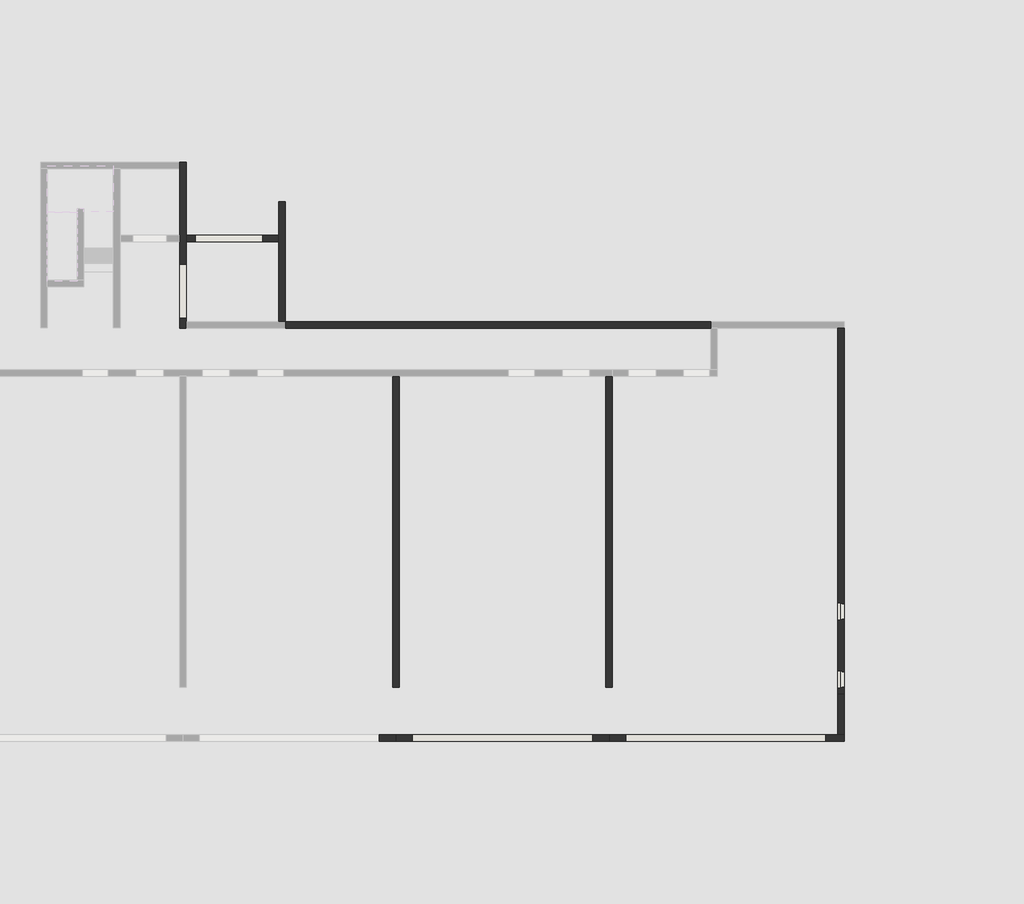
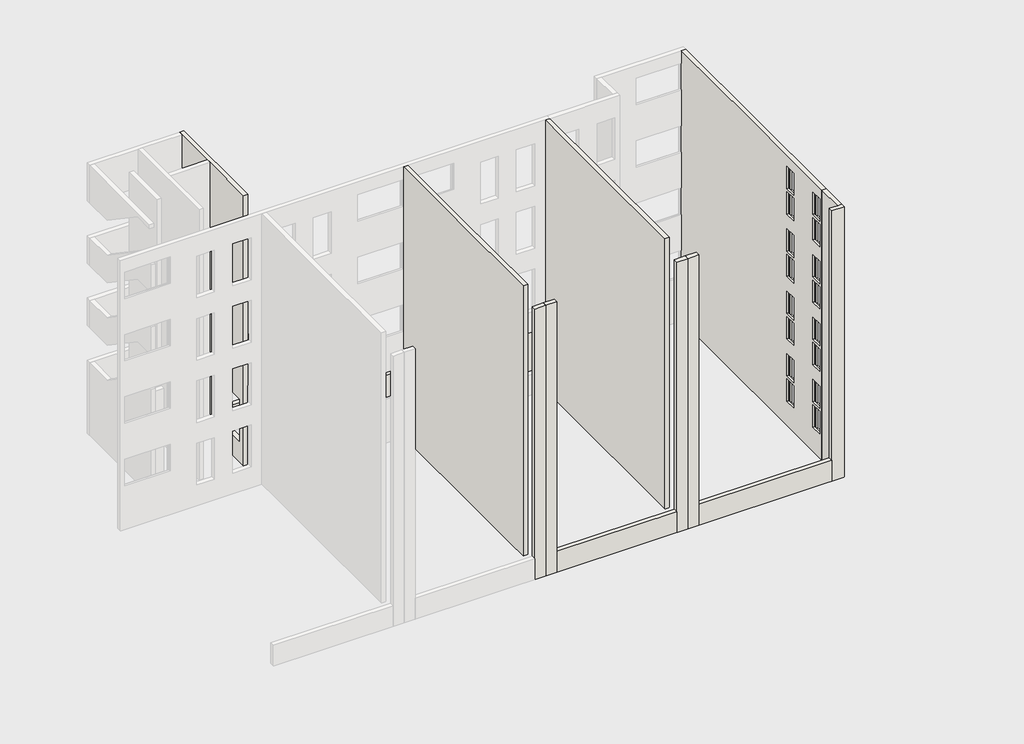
# One storey, part 3 of 4: 15 walls.
"""IFC4 building model written with IfcOpenShell, lengths in millimetres."""

import ifcopenshell
import ifcopenshell.guid

model = None  # the IFC model being written
_history = None  # IfcOwnerHistory: only IFC2X3 demands one
_inside = {}  # id of a spatial element -> (the spatial element, [elements in it])
_under = {}  # id of a project, library or spatial element -> (it, [spatial elements below it])
_declared = {}  # id of a project -> (the project, [libraries it declares])
_typed = {}  # id of a type object -> (the type object, [elements of that type])
_made_of = {}  # id of a material, layer set ... -> (it, [elements and type objects made of it])


def new_model(schema):
    """Start an empty IFC model of exactly this schema.

    Asked for "IFC4X3", IfcOpenShell would pick the latest addendum, in which some entities
    have other attributes; the version numbers below select the first issue.
    IFC2X3 requires an IfcOwnerHistory on every rooted entity: one is made here for all.
    """
    global model, _history
    if schema == "IFC4X3":
        model = ifcopenshell.file(schema_version=(4, 3, 0, 0))
    else:
        model = ifcopenshell.file(schema=schema)
    _inside.clear()
    _under.clear()
    _declared.clear()
    _typed.clear()
    _made_of.clear()
    _history = None
    if model.schema == "IFC2X3":
        org = make("IfcOrganization", Name="unknown")
        user = make(
            "IfcPersonAndOrganization",
            ThePerson=make("IfcPerson", FamilyName="unknown"),
            TheOrganization=org,
        )
        app = make(
            "IfcApplication",
            ApplicationDeveloper=org,
            Version="unknown",
            ApplicationFullName="unknown",
            ApplicationIdentifier="unknown",
        )
        _history = make(
            "IfcOwnerHistory",
            OwningUser=user,
            OwningApplication=app,
            ChangeAction="ADDED",
            CreationDate=0,
        )
    return model


def make(cls, **values):
    """One entity of the class cls with the attributes given. An attribute that is None is left unset."""
    return model.create_entity(
        cls, **{name: value for name, value in values.items() if value is not None}
    )


def rooted(cls, **values):
    """An entity with a GlobalId (a new one), such as an element, a storey or a relation."""
    return make(cls, GlobalId=ifcopenshell.guid.new(), OwnerHistory=_history, **values)


def si_unit(unit_type, name, prefix=None):
    """IfcSIUnit, for example si_unit("LENGTHUNIT", "METRE", prefix="MILLI")."""
    return make("IfcSIUnit", UnitType=unit_type, Prefix=prefix, Name=name)


def assignment(units):
    """IfcUnitAssignment: the units of a project."""
    return None if units is None else make("IfcUnitAssignment", Units=units)


def point(xyz):
    """IfcCartesianPoint."""
    return None if xyz is None else make("IfcCartesianPoint", Coordinates=xyz)


def direction(xyz):
    """IfcDirection."""
    return None if xyz is None else make("IfcDirection", DirectionRatios=xyz)


def frame(location, z_axis=None, x_axis=None):
    """IfcAxis2Placement3D, a coordinate frame: its origin and axes. An axis left out is left unset."""
    return make(
        "IfcAxis2Placement3D",
        Location=point(location),
        Axis=direction(z_axis),
        RefDirection=direction(x_axis),
    )


def origin():
    """The frame at (0, 0, 0) with its axes left unset."""
    return frame((0.0, 0.0, 0.0))


def place(relative_to, where):
    """IfcLocalPlacement: puts the frame where relative to a parent placement (None: the world)."""
    return make(
        "IfcLocalPlacement", PlacementRelTo=relative_to, RelativePlacement=where
    )


def context(
    kind, dimensions, precision=None, world=None, true_north=None, identifier=None
):
    """IfcGeometricRepresentationContext, for example the 3D "Model" context."""
    return make(
        "IfcGeometricRepresentationContext",
        ContextIdentifier=identifier,
        ContextType=kind,
        CoordinateSpaceDimension=dimensions,
        Precision=precision,
        WorldCoordinateSystem=world,
        TrueNorth=true_north,
    )


def project(units=None, contexts=None):
    """IfcProject with its units and contexts."""
    return rooted(
        "IfcProject",
        Name="project",
        RepresentationContexts=contexts,
        UnitsInContext=assignment(units),
    )


def spatial(cls, under=None, at=None, **own):
    """A site, building, storey or space (cls), placed at a placement, below another one or the project."""
    s = rooted(cls, ObjectPlacement=at, **own)
    if under is not None:
        _under.setdefault(under.id(), (under, []))[1].append(s)
    return s


def polyline(points):
    """IfcPolyline through the points."""
    return make("IfcPolyline", Points=[point(p) for p in points])


def outline(outer, holes=None, kind="AREA"):
    """IfcArbitraryClosedProfileDef: a profile drawn as a closed curve; with holes, ...WithVoids."""
    if holes is None:
        return make("IfcArbitraryClosedProfileDef", ProfileType=kind, OuterCurve=outer)
    return make(
        "IfcArbitraryProfileDefWithVoids",
        ProfileType=kind,
        OuterCurve=outer,
        InnerCurves=holes,
    )


def extrude(swept, where, along, depth):
    """IfcExtrudedAreaSolid: the profile swept, set in the frame where, extruded along a direction by depth."""
    return make(
        "IfcExtrudedAreaSolid",
        SweptArea=swept,
        Position=where,
        ExtrudedDirection=direction(along),
        Depth=depth,
    )


def faces_of(points, faces, orient=None, outer=None):
    """IfcFace entities. A face is a list of loops; a loop is a list of indices into points, from 0.

    orient and outer hold one flag for each loop. By default every Orientation is true, the
    first loop of a face is its IfcFaceOuterBound and the others are IfcFaceBound.
    """
    made = []
    for i, loops in enumerate(faces):
        bounds = []
        for j, loop in enumerate(loops):
            is_outer = j == 0 if outer is None else outer[i][j]
            bounds.append(
                make(
                    "IfcFaceOuterBound" if is_outer else "IfcFaceBound",
                    Bound=make("IfcPolyLoop", Polygon=[points[k] for k in loop]),
                    Orientation=True if orient is None else orient[i][j],
                )
            )
        made.append(make("IfcFace", Bounds=bounds))
    return made


def faceted_brep(points, faces, orient=None, outer=None, voids=None):
    """IfcFacetedBrep: a solid bounded by flat faces; with voids (closed shells), ...WithVoids."""
    shared = [point(p) for p in points]
    hull = make("IfcClosedShell", CfsFaces=faces_of(shared, faces, orient, outer))
    if voids is None:
        return make("IfcFacetedBrep", Outer=hull)
    return make(
        "IfcFacetedBrepWithVoids",
        Outer=hull,
        Voids=[
            make(cls, CfsFaces=faces_of(shared, fs, o, b)) for cls, fs, o, b in voids
        ],
    )


def shape(context_of_items, identifier, shape_type, items):
    """IfcShapeRepresentation: the items that make up one representation, for example the "Body"."""
    return make(
        "IfcShapeRepresentation",
        ContextOfItems=context_of_items,
        RepresentationIdentifier=identifier,
        RepresentationType=shape_type,
        Items=items,
    )


def made_of(thing, what):
    """Note that an element or type object is made of a material, layer set ...; save() writes the relation."""
    if what is not None:
        _made_of.setdefault(what.id(), (what, []))[1].append(thing)
    return thing


def element(
    cls,
    number,
    at=None,
    inside=None,
    cuts=None,
    type_object=None,
    material=None,
    context=None,
    identifier="Body",
    shape_type=None,
    held_by="IfcProductDefinitionShape",
    body=None,
    shapes=None,
    **own,
):
    """One element of the class cls, such as IfcWall. Its Tag is "e" and its number.

    at: its placement. inside: the storey or other place that contains it. cuts: it is an
    opening in that element (IfcRelVoidsElement). A single representation is given by context,
    identifier, shape_type and body (its items); several are given by shapes. held_by: the class
    of the entity that holds the representations. save() writes the other relations.
    """
    e = rooted(cls, Tag="e%d" % number, ObjectPlacement=at, **own)
    if body is not None:
        shapes = [shape(context, identifier, shape_type, body)]
    if shapes is not None:
        e.Representation = make(held_by, Representations=shapes)
    if inside is not None:
        _inside.setdefault(inside.id(), (inside, []))[1].append(e)
    if cuts is not None:
        rooted(
            "IfcRelVoidsElement", RelatingBuildingElement=cuts, RelatedOpeningElement=e
        )
    if type_object is not None:
        _typed.setdefault(type_object.id(), (type_object, []))[1].append(e)
    return made_of(e, material)


def aggregate(whole, parts):
    """IfcRelAggregates: a whole, such as a stair, and the parts it consists of."""
    return rooted("IfcRelAggregates", RelatingObject=whole, RelatedObjects=parts)


def save(model, path):
    """Write the relations noted so far, then the file.

    IfcRelAggregates (storeys below a building ...), IfcRelContainedInSpatialStructure (elements
    in a storey), IfcRelDefinesByType, IfcRelAssociatesMaterial and IfcRelDeclares: one each for
    every whole, place, type object, material and project.
    """
    for whole, parts in _under.values():
        aggregate(whole, parts)
    for where, things in _inside.values():
        rooted(
            "IfcRelContainedInSpatialStructure",
            RelatedElements=things,
            RelatingStructure=where,
        )
    for kind, things in _typed.values():
        rooted("IfcRelDefinesByType", RelatedObjects=things, RelatingType=kind)
    for what, things in _made_of.values():
        rooted("IfcRelAssociatesMaterial", RelatedObjects=things, RelatingMaterial=what)
    for by, libraries in _declared.values():
        rooted("IfcRelDeclares", RelatingContext=by, RelatedDefinitions=libraries)
    model.write(path)


model = new_model("IFC4")

# Units and contexts
model_context = context("Model", 3, world=origin())
ifc_project = project(units=[si_unit("LENGTHUNIT", "METRE", prefix="MILLI")], contexts=[model_context])

# Site, building, storey
site = spatial("IfcSite", under=ifc_project)
building = spatial("IfcBuilding", under=site)
storey = spatial("IfcBuildingStorey", under=building, Name="設計GL", Elevation=0.0)

# Walls
placement = place(None, origin())
element("IfcWall", 1, ObjectType="内壁(R)RC200", at=placement, inside=storey, context=model_context, shape_type="Brep", body=[
    faceted_brep([(8271.2812754, -15243.8671638, -1200.0), (8271.2812754, -5826.3671638, -1200.0), (8271.2812754, -5826.3671638, 13000.0), (8271.2812754, -9720.1171638, 13000.0), (8271.2812754, -9920.1171638, 13000.0), (8271.2812754, -15243.8671638, 13000.0), (8071.2812754, -15243.8671638, -1200.0), (8071.2812754, -15243.8671638, 13000.0), (8071.2812754, -9920.1171638, 13000.0), (8071.2812754, -9720.1171638, 13000.0), (8071.2812754, -5826.3671638, 13000.0), (8071.2812754, -5826.3671638, -1200.0)], [[[0, 1, 2, 3, 4, 5]], [[6, 7, 8, 9, 10, 11]], [[1, 0, 6, 11]], [[5, 4, 3, 2, 10, 9, 8, 7]], [[0, 5, 7, 6]], [[2, 1, 11, 10]]]),
])
element("IfcWall", 2, ObjectType="外壁(R)RC200", at=placement, inside=storey, context=model_context, shape_type="Brep", body=[
    faceted_brep([(15095.0312754, -4376.3671638, -1200.0), (15095.0312754, -15243.8671638, -1200.0), (15095.0312754, -15443.8671638, -1200.0), (15095.0312754, -15443.8671638, 13000.0), (15095.0312754, -15243.8671638, 13000.0), (15095.0312754, -9920.1171638, 13000.0), (15095.0312754, -9720.1171638, 13000.0), (15095.0312754, -4376.3671638, 13000.0), (15095.0312754, -12680.1171638, 2395.0), (15095.0312754, -12680.1171638, 3465.0), (15095.0312754, -13210.1171638, 3465.0), (15095.0312754, -13210.1171638, 2395.0), (15095.0312754, -14730.1171638, 2395.0), (15095.0312754, -14730.1171638, 3465.0), (15095.0312754, -15260.1171638, 3465.0), (15095.0312754, -15260.1171638, 2395.0), (15095.0312754, -12680.1171638, 1175.0), (15095.0312754, -12680.1171638, 2245.0), (15095.0312754, -13210.1171638, 2245.0), (15095.0312754, -13210.1171638, 1175.0), (15095.0312754, -14730.1171638, 1175.0), (15095.0312754, -14730.1171638, 2245.0), (15095.0312754, -15260.1171638, 2245.0), (15095.0312754, -15260.1171638, 1175.0), (15095.0312754, -12680.1171638, 5395.0), (15095.0312754, -12680.1171638, 6465.0), (15095.0312754, -13210.1171638, 6465.0), (15095.0312754, -13210.1171638, 5395.0), (15095.0312754, -14730.1171638, 5395.0), (15095.0312754, -14730.1171638, 6465.0), (15095.0312754, -15260.1171638, 6465.0), (15095.0312754, -15260.1171638, 5395.0), (15095.0312754, -12680.1171638, 4175.0), (15095.0312754, -12680.1171638, 5245.0), (15095.0312754, -13210.1171638, 5245.0), (15095.0312754, -13210.1171638, 4175.0), (15095.0312754, -14730.1171638, 4175.0), (15095.0312754, -14730.1171638, 5245.0), (15095.0312754, -15260.1171638, 5245.0), (15095.0312754, -15260.1171638, 4175.0), (15095.0312754, -12680.1171638, 8395.0), (15095.0312754, -12680.1171638, 9465.0), (15095.0312754, -13210.1171638, 9465.0), (15095.0312754, -13210.1171638, 8395.0), (15095.0312754, -14730.1171638, 8395.0), (15095.0312754, -14730.1171638, 9465.0), (15095.0312754, -15260.1171638, 9465.0), (15095.0312754, -15260.1171638, 8395.0), (15095.0312754, -12680.1171638, 7175.0), (15095.0312754, -12680.1171638, 8245.0), (15095.0312754, -13210.1171638, 8245.0), (15095.0312754, -13210.1171638, 7175.0), (15095.0312754, -14730.1171638, 7175.0), (15095.0312754, -14730.1171638, 8245.0), (15095.0312754, -15260.1171638, 8245.0), (15095.0312754, -15260.1171638, 7175.0), (15095.0312754, -12680.1171638, 11395.0), (15095.0312754, -12680.1171638, 12465.0), (15095.0312754, -13210.1171638, 12465.0), (15095.0312754, -13210.1171638, 11395.0), (15095.0312754, -14730.1171638, 11395.0), (15095.0312754, -14730.1171638, 12465.0), (15095.0312754, -15260.1171638, 12465.0), (15095.0312754, -15260.1171638, 11395.0), (15095.0312754, -12680.1171638, 10175.0), (15095.0312754, -12680.1171638, 11245.0), (15095.0312754, -13210.1171638, 11245.0), (15095.0312754, -13210.1171638, 10175.0), (15095.0312754, -14730.1171638, 10175.0), (15095.0312754, -14730.1171638, 11245.0), (15095.0312754, -15260.1171638, 11245.0), (15095.0312754, -15260.1171638, 10175.0), (15295.0312754, -4376.3671638, -1200.0), (15295.0312754, -4376.3671638, 13000.0), (15295.0312754, -15443.8671638, 13000.0), (15295.0312754, -15443.8671638, -1200.0), (15295.0312754, -12710.1171638, 2305.0), (15295.0312754, -13180.1171638, 2305.0), (15295.0312754, -13180.1171638, 3440.0), (15295.0312754, -12710.1171638, 3440.0), (15295.0312754, -14760.1171638, 2305.0), (15295.0312754, -15230.1171638, 2305.0), (15295.0312754, -15230.1171638, 3440.0), (15295.0312754, -14760.1171638, 3440.0), (15295.0312754, -12710.1171638, 1085.0), (15295.0312754, -13180.1171638, 1085.0), (15295.0312754, -13180.1171638, 2220.0), (15295.0312754, -12710.1171638, 2220.0), (15295.0312754, -14760.1171638, 1085.0), (15295.0312754, -15230.1171638, 1085.0), (15295.0312754, -15230.1171638, 2220.0), (15295.0312754, -14760.1171638, 2220.0), (15295.0312754, -12710.1171638, 5305.0), (15295.0312754, -13180.1171638, 5305.0), (15295.0312754, -13180.1171638, 6440.0), (15295.0312754, -12710.1171638, 6440.0), (15295.0312754, -14760.1171638, 5305.0), (15295.0312754, -15230.1171638, 5305.0), (15295.0312754, -15230.1171638, 6440.0), (15295.0312754, -14760.1171638, 6440.0), (15295.0312754, -12710.1171638, 4085.0), (15295.0312754, -13180.1171638, 4085.0), (15295.0312754, -13180.1171638, 5220.0), (15295.0312754, -12710.1171638, 5220.0), (15295.0312754, -14760.1171638, 4085.0), (15295.0312754, -15230.1171638, 4085.0), (15295.0312754, -15230.1171638, 5220.0), (15295.0312754, -14760.1171638, 5220.0), (15295.0312754, -12710.1171638, 8305.0), (15295.0312754, -13180.1171638, 8305.0), (15295.0312754, -13180.1171638, 9440.0), (15295.0312754, -12710.1171638, 9440.0), (15295.0312754, -14760.1171638, 8305.0), (15295.0312754, -15230.1171638, 8305.0), (15295.0312754, -15230.1171638, 9440.0), (15295.0312754, -14760.1171638, 9440.0), (15295.0312754, -12710.1171638, 7085.0), (15295.0312754, -13180.1171638, 7085.0), (15295.0312754, -13180.1171638, 8220.0), (15295.0312754, -12710.1171638, 8220.0), (15295.0312754, -14760.1171638, 7085.0), (15295.0312754, -15230.1171638, 7085.0), (15295.0312754, -15230.1171638, 8220.0), (15295.0312754, -14760.1171638, 8220.0), (15295.0312754, -12710.1171638, 11305.0), (15295.0312754, -13180.1171638, 11305.0), (15295.0312754, -13180.1171638, 12440.0), (15295.0312754, -12710.1171638, 12440.0), (15295.0312754, -14760.1171638, 11305.0), (15295.0312754, -15230.1171638, 11305.0), (15295.0312754, -15230.1171638, 12440.0), (15295.0312754, -14760.1171638, 12440.0), (15295.0312754, -12710.1171638, 10085.0), (15295.0312754, -13180.1171638, 10085.0), (15295.0312754, -13180.1171638, 11220.0), (15295.0312754, -12710.1171638, 11220.0), (15295.0312754, -14760.1171638, 10085.0), (15295.0312754, -15230.1171638, 10085.0), (15295.0312754, -15230.1171638, 11220.0), (15295.0312754, -14760.1171638, 11220.0), (15165.0312754, -12680.1171638, 3465.0), (15165.0312754, -12680.1171638, 2395.0), (15165.0312754, -13210.1171638, 2395.0), (15165.0312754, -13210.1171638, 3465.0), (15165.0312754, -13200.1171638, 2395.0), (15165.0312754, -12690.1171638, 2395.0), (15165.0312754, -12690.1171638, 3460.0), (15165.0312754, -13200.1171638, 3460.0), (15165.0312754, -12690.1171638, 2325.0), (15235.0312754, -12690.1171638, 2314.2307692), (15235.0312754, -12690.1171638, 3460.0), (15165.0312754, -13200.1171638, 2325.0), (15235.0312754, -13200.1171638, 3460.0), (15235.0312754, -13200.1171638, 2314.2307692), (15235.0312754, -13180.1171638, 2314.2307692), (15235.0312754, -12710.1171638, 2314.2307692), (15235.0312754, -12710.1171638, 3440.0), (15235.0312754, -13180.1171638, 3440.0), (15165.0312754, -14730.1171638, 3465.0), (15165.0312754, -14730.1171638, 2395.0), (15165.0312754, -15260.1171638, 2395.0), (15165.0312754, -15260.1171638, 3465.0), (15165.0312754, -15250.1171638, 2395.0), (15165.0312754, -14740.1171638, 2395.0), (15165.0312754, -14740.1171638, 3460.0), (15165.0312754, -15250.1171638, 3460.0), (15165.0312754, -14740.1171638, 2325.0), (15235.0312754, -14740.1171638, 2314.2307692), (15235.0312754, -14740.1171638, 3460.0), (15165.0312754, -15250.1171638, 2325.0), (15235.0312754, -15250.1171638, 3460.0), (15235.0312754, -15250.1171638, 2314.2307692), (15235.0312754, -15230.1171638, 2314.2307692), (15235.0312754, -14760.1171638, 2314.2307692), (15235.0312754, -14760.1171638, 3440.0), (15235.0312754, -15230.1171638, 3440.0), (15165.0312754, -12680.1171638, 2245.0), (15165.0312754, -12680.1171638, 1175.0), (15165.0312754, -13210.1171638, 1175.0), (15165.0312754, -13210.1171638, 2245.0), (15165.0312754, -13200.1171638, 1175.0), (15165.0312754, -12690.1171638, 1175.0), (15165.0312754, -12690.1171638, 2240.0), (15165.0312754, -13200.1171638, 2240.0), (15165.0312754, -12690.1171638, 1105.0), (15235.0312754, -12690.1171638, 1094.2307692), (15235.0312754, -12690.1171638, 2240.0), (15165.0312754, -13200.1171638, 1105.0), (15235.0312754, -13200.1171638, 2240.0), (15235.0312754, -13200.1171638, 1094.2307692), (15235.0312754, -13180.1171638, 1094.2307692), (15235.0312754, -12710.1171638, 1094.2307692), (15235.0312754, -12710.1171638, 2220.0), (15235.0312754, -13180.1171638, 2220.0), (15165.0312754, -14730.1171638, 2245.0), (15165.0312754, -14730.1171638, 1175.0), (15165.0312754, -15260.1171638, 1175.0), (15165.0312754, -15260.1171638, 2245.0), (15165.0312754, -15250.1171638, 1175.0), (15165.0312754, -14740.1171638, 1175.0), (15165.0312754, -14740.1171638, 2240.0), (15165.0312754, -15250.1171638, 2240.0), (15165.0312754, -14740.1171638, 1105.0), (15235.0312754, -14740.1171638, 1094.2307692), (15235.0312754, -14740.1171638, 2240.0), (15165.0312754, -15250.1171638, 1105.0), (15235.0312754, -15250.1171638, 2240.0), (15235.0312754, -15250.1171638, 1094.2307692), (15235.0312754, -15230.1171638, 1094.2307692), (15235.0312754, -14760.1171638, 1094.2307692), (15235.0312754, -14760.1171638, 2220.0), (15235.0312754, -15230.1171638, 2220.0), (15165.0312754, -12680.1171638, 6465.0), (15165.0312754, -12680.1171638, 5395.0), (15165.0312754, -13210.1171638, 5395.0), (15165.0312754, -13210.1171638, 6465.0), (15165.0312754, -13200.1171638, 5395.0), (15165.0312754, -12690.1171638, 5395.0), (15165.0312754, -12690.1171638, 6460.0), (15165.0312754, -13200.1171638, 6460.0), (15165.0312754, -12690.1171638, 5325.0), (15235.0312754, -12690.1171638, 5314.2307692), (15235.0312754, -12690.1171638, 6460.0), (15165.0312754, -13200.1171638, 5325.0), (15235.0312754, -13200.1171638, 6460.0), (15235.0312754, -13200.1171638, 5314.2307692), (15235.0312754, -13180.1171638, 5314.2307692), (15235.0312754, -12710.1171638, 5314.2307692), (15235.0312754, -12710.1171638, 6440.0), (15235.0312754, -13180.1171638, 6440.0), (15165.0312754, -14730.1171638, 6465.0), (15165.0312754, -14730.1171638, 5395.0), (15165.0312754, -15260.1171638, 5395.0), (15165.0312754, -15260.1171638, 6465.0), (15165.0312754, -15250.1171638, 5395.0), (15165.0312754, -14740.1171638, 5395.0), (15165.0312754, -14740.1171638, 6460.0), (15165.0312754, -15250.1171638, 6460.0), (15165.0312754, -14740.1171638, 5325.0), (15235.0312754, -14740.1171638, 5314.2307692), (15235.0312754, -14740.1171638, 6460.0), (15165.0312754, -15250.1171638, 5325.0), (15235.0312754, -15250.1171638, 6460.0), (15235.0312754, -15250.1171638, 5314.2307692), (15235.0312754, -15230.1171638, 5314.2307692), (15235.0312754, -14760.1171638, 5314.2307692), (15235.0312754, -14760.1171638, 6440.0), (15235.0312754, -15230.1171638, 6440.0), (15165.0312754, -12680.1171638, 5245.0), (15165.0312754, -12680.1171638, 4175.0), (15165.0312754, -13210.1171638, 4175.0), (15165.0312754, -13210.1171638, 5245.0), (15165.0312754, -13200.1171638, 4175.0), (15165.0312754, -12690.1171638, 4175.0), (15165.0312754, -12690.1171638, 5240.0), (15165.0312754, -13200.1171638, 5240.0), (15165.0312754, -12690.1171638, 4105.0), (15235.0312754, -12690.1171638, 4094.2307692), (15235.0312754, -12690.1171638, 5240.0), (15165.0312754, -13200.1171638, 4105.0), (15235.0312754, -13200.1171638, 5240.0), (15235.0312754, -13200.1171638, 4094.2307692), (15235.0312754, -13180.1171638, 4094.2307692), (15235.0312754, -12710.1171638, 4094.2307692), (15235.0312754, -12710.1171638, 5220.0), (15235.0312754, -13180.1171638, 5220.0), (15165.0312754, -14730.1171638, 5245.0), (15165.0312754, -14730.1171638, 4175.0), (15165.0312754, -15260.1171638, 4175.0), (15165.0312754, -15260.1171638, 5245.0), (15165.0312754, -15250.1171638, 4175.0), (15165.0312754, -14740.1171638, 4175.0), (15165.0312754, -14740.1171638, 5240.0), (15165.0312754, -15250.1171638, 5240.0), (15165.0312754, -14740.1171638, 4105.0), (15235.0312754, -14740.1171638, 4094.2307692), (15235.0312754, -14740.1171638, 5240.0), (15165.0312754, -15250.1171638, 4105.0), (15235.0312754, -15250.1171638, 5240.0), (15235.0312754, -15250.1171638, 4094.2307692), (15235.0312754, -15230.1171638, 4094.2307692), (15235.0312754, -14760.1171638, 4094.2307692), (15235.0312754, -14760.1171638, 5220.0), (15235.0312754, -15230.1171638, 5220.0), (15165.0312754, -12680.1171638, 9465.0), (15165.0312754, -12680.1171638, 8395.0), (15165.0312754, -13210.1171638, 8395.0), (15165.0312754, -13210.1171638, 9465.0), (15165.0312754, -13200.1171638, 8395.0), (15165.0312754, -12690.1171638, 8395.0), (15165.0312754, -12690.1171638, 9460.0), (15165.0312754, -13200.1171638, 9460.0), (15165.0312754, -12690.1171638, 8325.0), (15235.0312754, -12690.1171638, 8314.2307692), (15235.0312754, -12690.1171638, 9460.0), (15165.0312754, -13200.1171638, 8325.0), (15235.0312754, -13200.1171638, 9460.0), (15235.0312754, -13200.1171638, 8314.2307692), (15235.0312754, -13180.1171638, 8314.2307692), (15235.0312754, -12710.1171638, 8314.2307692), (15235.0312754, -12710.1171638, 9440.0), (15235.0312754, -13180.1171638, 9440.0), (15165.0312754, -14730.1171638, 9465.0), (15165.0312754, -14730.1171638, 8395.0), (15165.0312754, -15260.1171638, 8395.0), (15165.0312754, -15260.1171638, 9465.0), (15165.0312754, -15250.1171638, 8395.0), (15165.0312754, -14740.1171638, 8395.0), (15165.0312754, -14740.1171638, 9460.0), (15165.0312754, -15250.1171638, 9460.0), (15165.0312754, -14740.1171638, 8325.0), (15235.0312754, -14740.1171638, 8314.2307692), (15235.0312754, -14740.1171638, 9460.0), (15165.0312754, -15250.1171638, 8325.0), (15235.0312754, -15250.1171638, 9460.0), (15235.0312754, -15250.1171638, 8314.2307692), (15235.0312754, -15230.1171638, 8314.2307692), (15235.0312754, -14760.1171638, 8314.2307692), (15235.0312754, -14760.1171638, 9440.0), (15235.0312754, -15230.1171638, 9440.0), (15165.0312754, -12680.1171638, 8245.0), (15165.0312754, -12680.1171638, 7175.0), (15165.0312754, -13210.1171638, 7175.0), (15165.0312754, -13210.1171638, 8245.0), (15165.0312754, -13200.1171638, 7175.0), (15165.0312754, -12690.1171638, 7175.0), (15165.0312754, -12690.1171638, 8240.0), (15165.0312754, -13200.1171638, 8240.0), (15165.0312754, -12690.1171638, 7105.0), (15235.0312754, -12690.1171638, 7094.2307692), (15235.0312754, -12690.1171638, 8240.0), (15165.0312754, -13200.1171638, 7105.0), (15235.0312754, -13200.1171638, 8240.0), (15235.0312754, -13200.1171638, 7094.2307692), (15235.0312754, -13180.1171638, 7094.2307692), (15235.0312754, -12710.1171638, 7094.2307692), (15235.0312754, -12710.1171638, 8220.0), (15235.0312754, -13180.1171638, 8220.0), (15165.0312754, -14730.1171638, 8245.0), (15165.0312754, -14730.1171638, 7175.0), (15165.0312754, -15260.1171638, 7175.0), (15165.0312754, -15260.1171638, 8245.0), (15165.0312754, -15250.1171638, 7175.0), (15165.0312754, -14740.1171638, 7175.0), (15165.0312754, -14740.1171638, 8240.0), (15165.0312754, -15250.1171638, 8240.0), (15165.0312754, -14740.1171638, 7105.0), (15235.0312754, -14740.1171638, 7094.2307692), (15235.0312754, -14740.1171638, 8240.0), (15165.0312754, -15250.1171638, 7105.0), (15235.0312754, -15250.1171638, 8240.0), (15235.0312754, -15250.1171638, 7094.2307692), (15235.0312754, -15230.1171638, 7094.2307692), (15235.0312754, -14760.1171638, 7094.2307692), (15235.0312754, -14760.1171638, 8220.0), (15235.0312754, -15230.1171638, 8220.0), (15165.0312754, -12680.1171638, 12465.0), (15165.0312754, -12680.1171638, 11395.0), (15165.0312754, -13210.1171638, 11395.0), (15165.0312754, -13210.1171638, 12465.0), (15165.0312754, -13200.1171638, 11395.0), (15165.0312754, -12690.1171638, 11395.0), (15165.0312754, -12690.1171638, 12460.0), (15165.0312754, -13200.1171638, 12460.0), (15165.0312754, -12690.1171638, 11325.0), (15235.0312754, -12690.1171638, 11314.2307692), (15235.0312754, -12690.1171638, 12460.0), (15165.0312754, -13200.1171638, 11325.0), (15235.0312754, -13200.1171638, 12460.0), (15235.0312754, -13200.1171638, 11314.2307692), (15235.0312754, -13180.1171638, 11314.2307692), (15235.0312754, -12710.1171638, 11314.2307692), (15235.0312754, -12710.1171638, 12440.0), (15235.0312754, -13180.1171638, 12440.0), (15165.0312754, -14730.1171638, 12465.0), (15165.0312754, -14730.1171638, 11395.0), (15165.0312754, -15260.1171638, 11395.0), (15165.0312754, -15260.1171638, 12465.0), (15165.0312754, -15250.1171638, 11395.0), (15165.0312754, -14740.1171638, 11395.0), (15165.0312754, -14740.1171638, 12460.0), (15165.0312754, -15250.1171638, 12460.0), (15165.0312754, -14740.1171638, 11325.0), (15235.0312754, -14740.1171638, 11314.2307692), (15235.0312754, -14740.1171638, 12460.0), (15165.0312754, -15250.1171638, 11325.0), (15235.0312754, -15250.1171638, 12460.0), (15235.0312754, -15250.1171638, 11314.2307692), (15235.0312754, -15230.1171638, 11314.2307692), (15235.0312754, -14760.1171638, 11314.2307692), (15235.0312754, -14760.1171638, 12440.0), (15235.0312754, -15230.1171638, 12440.0), (15165.0312754, -12680.1171638, 11245.0), (15165.0312754, -12680.1171638, 10175.0), (15165.0312754, -13210.1171638, 10175.0), (15165.0312754, -13210.1171638, 11245.0), (15165.0312754, -13200.1171638, 10175.0), (15165.0312754, -12690.1171638, 10175.0), (15165.0312754, -12690.1171638, 11240.0), (15165.0312754, -13200.1171638, 11240.0), (15165.0312754, -12690.1171638, 10105.0), (15235.0312754, -12690.1171638, 10094.2307692), (15235.0312754, -12690.1171638, 11240.0), (15165.0312754, -13200.1171638, 10105.0), (15235.0312754, -13200.1171638, 11240.0), (15235.0312754, -13200.1171638, 10094.2307692), (15235.0312754, -13180.1171638, 10094.2307692), (15235.0312754, -12710.1171638, 10094.2307692), (15235.0312754, -12710.1171638, 11220.0), (15235.0312754, -13180.1171638, 11220.0), (15165.0312754, -14730.1171638, 11245.0), (15165.0312754, -14730.1171638, 10175.0), (15165.0312754, -15260.1171638, 10175.0), (15165.0312754, -15260.1171638, 11245.0), (15165.0312754, -15250.1171638, 10175.0), (15165.0312754, -14740.1171638, 10175.0), (15165.0312754, -14740.1171638, 11240.0), (15165.0312754, -15250.1171638, 11240.0), (15165.0312754, -14740.1171638, 10105.0), (15235.0312754, -14740.1171638, 10094.2307692), (15235.0312754, -14740.1171638, 11240.0), (15165.0312754, -15250.1171638, 10105.0), (15235.0312754, -15250.1171638, 11240.0), (15235.0312754, -15250.1171638, 10094.2307692), (15235.0312754, -15230.1171638, 10094.2307692), (15235.0312754, -14760.1171638, 10094.2307692), (15235.0312754, -14760.1171638, 11220.0), (15235.0312754, -15230.1171638, 11220.0)], [[[0, 1, 2, 3, 4, 5, 6, 7], [8, 9, 10, 11], [12, 13, 14, 15], [16, 17, 18, 19], [20, 21, 22, 23], [24, 25, 26, 27], [28, 29, 30, 31], [32, 33, 34, 35], [36, 37, 38, 39], [40, 41, 42, 43], [44, 45, 46, 47], [48, 49, 50, 51], [52, 53, 54, 55], [56, 57, 58, 59], [60, 61, 62, 63], [64, 65, 66, 67], [68, 69, 70, 71]], [[72, 73, 74, 75], [76, 77, 78, 79], [80, 81, 82, 83], [84, 85, 86, 87], [88, 89, 90, 91], [92, 93, 94, 95], [96, 97, 98, 99], [100, 101, 102, 103], [104, 105, 106, 107], [108, 109, 110, 111], [112, 113, 114, 115], [116, 117, 118, 119], [120, 121, 122, 123], [124, 125, 126, 127], [128, 129, 130, 131], [132, 133, 134, 135], [136, 137, 138, 139]], [[2, 1, 0, 72, 75]], [[7, 6, 5, 4, 3, 74, 73]], [[0, 7, 73, 72]], [[140, 9, 8, 141]], [[142, 11, 10, 143]], [[8, 11, 142, 144, 145, 141]], [[141, 145, 146, 147, 144, 142, 143, 140]], [[143, 10, 9, 140]], [[146, 145, 148, 149, 150]], [[151, 144, 147, 152, 153]], [[148, 151, 153, 154, 77, 76, 155, 149]], [[149, 155, 156, 157, 154, 153, 152, 150]], [[150, 152, 147, 146]], [[148, 145, 144, 151]], [[156, 155, 76, 79]], [[154, 157, 78, 77]], [[79, 78, 157, 156]], [[158, 13, 12, 159]], [[160, 15, 14, 161]], [[12, 15, 160, 162, 163, 159]], [[159, 163, 164, 165, 162, 160, 161, 158]], [[161, 14, 13, 158]], [[164, 163, 166, 167, 168]], [[169, 162, 165, 170, 171]], [[166, 169, 171, 172, 81, 80, 173, 167]], [[167, 173, 174, 175, 172, 171, 170, 168]], [[168, 170, 165, 164]], [[166, 163, 162, 169]], [[174, 173, 80, 83]], [[172, 175, 82, 81]], [[83, 82, 175, 174]], [[176, 17, 16, 177]], [[178, 19, 18, 179]], [[16, 19, 178, 180, 181, 177]], [[177, 181, 182, 183, 180, 178, 179, 176]], [[179, 18, 17, 176]], [[182, 181, 184, 185, 186]], [[187, 180, 183, 188, 189]], [[184, 187, 189, 190, 85, 84, 191, 185]], [[185, 191, 192, 193, 190, 189, 188, 186]], [[186, 188, 183, 182]], [[184, 181, 180, 187]], [[192, 191, 84, 87]], [[190, 193, 86, 85]], [[87, 86, 193, 192]], [[194, 21, 20, 195]], [[196, 23, 22, 197]], [[20, 23, 196, 198, 199, 195]], [[195, 199, 200, 201, 198, 196, 197, 194]], [[197, 22, 21, 194]], [[200, 199, 202, 203, 204]], [[205, 198, 201, 206, 207]], [[202, 205, 207, 208, 89, 88, 209, 203]], [[203, 209, 210, 211, 208, 207, 206, 204]], [[204, 206, 201, 200]], [[202, 199, 198, 205]], [[210, 209, 88, 91]], [[208, 211, 90, 89]], [[91, 90, 211, 210]], [[212, 25, 24, 213]], [[214, 27, 26, 215]], [[24, 27, 214, 216, 217, 213]], [[213, 217, 218, 219, 216, 214, 215, 212]], [[215, 26, 25, 212]], [[218, 217, 220, 221, 222]], [[223, 216, 219, 224, 225]], [[220, 223, 225, 226, 93, 92, 227, 221]], [[221, 227, 228, 229, 226, 225, 224, 222]], [[222, 224, 219, 218]], [[220, 217, 216, 223]], [[228, 227, 92, 95]], [[226, 229, 94, 93]], [[95, 94, 229, 228]], [[230, 29, 28, 231]], [[232, 31, 30, 233]], [[28, 31, 232, 234, 235, 231]], [[231, 235, 236, 237, 234, 232, 233, 230]], [[233, 30, 29, 230]], [[236, 235, 238, 239, 240]], [[241, 234, 237, 242, 243]], [[238, 241, 243, 244, 97, 96, 245, 239]], [[239, 245, 246, 247, 244, 243, 242, 240]], [[240, 242, 237, 236]], [[238, 235, 234, 241]], [[246, 245, 96, 99]], [[244, 247, 98, 97]], [[99, 98, 247, 246]], [[248, 33, 32, 249]], [[250, 35, 34, 251]], [[32, 35, 250, 252, 253, 249]], [[249, 253, 254, 255, 252, 250, 251, 248]], [[251, 34, 33, 248]], [[254, 253, 256, 257, 258]], [[259, 252, 255, 260, 261]], [[256, 259, 261, 262, 101, 100, 263, 257]], [[257, 263, 264, 265, 262, 261, 260, 258]], [[258, 260, 255, 254]], [[256, 253, 252, 259]], [[264, 263, 100, 103]], [[262, 265, 102, 101]], [[103, 102, 265, 264]], [[266, 37, 36, 267]], [[268, 39, 38, 269]], [[36, 39, 268, 270, 271, 267]], [[267, 271, 272, 273, 270, 268, 269, 266]], [[269, 38, 37, 266]], [[272, 271, 274, 275, 276]], [[277, 270, 273, 278, 279]], [[274, 277, 279, 280, 105, 104, 281, 275]], [[275, 281, 282, 283, 280, 279, 278, 276]], [[276, 278, 273, 272]], [[274, 271, 270, 277]], [[282, 281, 104, 107]], [[280, 283, 106, 105]], [[107, 106, 283, 282]], [[284, 41, 40, 285]], [[286, 43, 42, 287]], [[40, 43, 286, 288, 289, 285]], [[285, 289, 290, 291, 288, 286, 287, 284]], [[287, 42, 41, 284]], [[290, 289, 292, 293, 294]], [[295, 288, 291, 296, 297]], [[292, 295, 297, 298, 109, 108, 299, 293]], [[293, 299, 300, 301, 298, 297, 296, 294]], [[294, 296, 291, 290]], [[292, 289, 288, 295]], [[300, 299, 108, 111]], [[298, 301, 110, 109]], [[111, 110, 301, 300]], [[302, 45, 44, 303]], [[304, 47, 46, 305]], [[44, 47, 304, 306, 307, 303]], [[303, 307, 308, 309, 306, 304, 305, 302]], [[305, 46, 45, 302]], [[308, 307, 310, 311, 312]], [[313, 306, 309, 314, 315]], [[310, 313, 315, 316, 113, 112, 317, 311]], [[311, 317, 318, 319, 316, 315, 314, 312]], [[312, 314, 309, 308]], [[310, 307, 306, 313]], [[318, 317, 112, 115]], [[316, 319, 114, 113]], [[115, 114, 319, 318]], [[320, 49, 48, 321]], [[322, 51, 50, 323]], [[48, 51, 322, 324, 325, 321]], [[321, 325, 326, 327, 324, 322, 323, 320]], [[323, 50, 49, 320]], [[326, 325, 328, 329, 330]], [[331, 324, 327, 332, 333]], [[328, 331, 333, 334, 117, 116, 335, 329]], [[329, 335, 336, 337, 334, 333, 332, 330]], [[330, 332, 327, 326]], [[328, 325, 324, 331]], [[336, 335, 116, 119]], [[334, 337, 118, 117]], [[119, 118, 337, 336]], [[338, 53, 52, 339]], [[340, 55, 54, 341]], [[52, 55, 340, 342, 343, 339]], [[339, 343, 344, 345, 342, 340, 341, 338]], [[341, 54, 53, 338]], [[344, 343, 346, 347, 348]], [[349, 342, 345, 350, 351]], [[346, 349, 351, 352, 121, 120, 353, 347]], [[347, 353, 354, 355, 352, 351, 350, 348]], [[348, 350, 345, 344]], [[346, 343, 342, 349]], [[354, 353, 120, 123]], [[352, 355, 122, 121]], [[123, 122, 355, 354]], [[356, 57, 56, 357]], [[358, 59, 58, 359]], [[56, 59, 358, 360, 361, 357]], [[357, 361, 362, 363, 360, 358, 359, 356]], [[359, 58, 57, 356]], [[362, 361, 364, 365, 366]], [[367, 360, 363, 368, 369]], [[364, 367, 369, 370, 125, 124, 371, 365]], [[365, 371, 372, 373, 370, 369, 368, 366]], [[366, 368, 363, 362]], [[364, 361, 360, 367]], [[372, 371, 124, 127]], [[370, 373, 126, 125]], [[127, 126, 373, 372]], [[374, 61, 60, 375]], [[376, 63, 62, 377]], [[60, 63, 376, 378, 379, 375]], [[375, 379, 380, 381, 378, 376, 377, 374]], [[377, 62, 61, 374]], [[380, 379, 382, 383, 384]], [[385, 378, 381, 386, 387]], [[382, 385, 387, 388, 129, 128, 389, 383]], [[383, 389, 390, 391, 388, 387, 386, 384]], [[384, 386, 381, 380]], [[382, 379, 378, 385]], [[390, 389, 128, 131]], [[388, 391, 130, 129]], [[131, 130, 391, 390]], [[392, 65, 64, 393]], [[394, 67, 66, 395]], [[64, 67, 394, 396, 397, 393]], [[393, 397, 398, 399, 396, 394, 395, 392]], [[395, 66, 65, 392]], [[398, 397, 400, 401, 402]], [[403, 396, 399, 404, 405]], [[400, 403, 405, 406, 133, 132, 407, 401]], [[401, 407, 408, 409, 406, 405, 404, 402]], [[402, 404, 399, 398]], [[400, 397, 396, 403]], [[408, 407, 132, 135]], [[406, 409, 134, 133]], [[135, 134, 409, 408]], [[410, 69, 68, 411]], [[412, 71, 70, 413]], [[68, 71, 412, 414, 415, 411]], [[411, 415, 416, 417, 414, 412, 413, 410]], [[413, 70, 69, 410]], [[416, 415, 418, 419, 420]], [[421, 414, 417, 422, 423]], [[418, 421, 423, 424, 137, 136, 425, 419]], [[419, 425, 426, 427, 424, 423, 422, 420]], [[420, 422, 417, 416]], [[418, 415, 414, 421]], [[426, 425, 136, 139]], [[424, 427, 138, 137]], [[139, 138, 427, 426]], [[3, 2, 75, 74]]]),
])
element("IfcWall", 3, ObjectType="内壁(R)RC200", at=placement, inside=storey, context=model_context, shape_type="Brep", body=[
    faceted_brep([(1621.2812754, -5826.3671638, -1200.0), (1621.2812754, -15243.8671638, -1200.0), (1621.2812754, -15243.8671638, 13000.0), (1621.2812754, -9920.1171638, 13000.0), (1621.2812754, -9720.1171638, 13000.0), (1621.2812754, -5826.3671638, 13000.0), (1821.2812754, -5826.3671638, -1200.0), (1821.2812754, -5826.3671638, 13000.0), (1821.2812754, -9720.1171638, 13000.0), (1821.2812754, -9920.1171638, 13000.0), (1821.2812754, -15243.8671638, 13000.0), (1821.2812754, -15243.8671638, -1200.0)], [[[0, 1, 2, 3, 4, 5]], [[6, 7, 8, 9, 10, 11]], [[1, 0, 6, 11]], [[5, 4, 3, 2, 10, 9, 8, 7]], [[2, 1, 11, 10]], [[0, 5, 7, 6]]]),
])
element("IfcWall", 4, ObjectType="(R)RC200", at=placement, inside=storey, context=model_context, shape_type="SweptSolid", body=[
    extrude(outline(polyline([(1721.2812754, -16870.1171638), (1221.2812754, -16870.1171638), (1221.2812754, -16670.1171638), (1721.2812754, -16670.1171638), (1721.2812754, -16870.1171638)])), frame((0.0, 0.0, -1200.0), z_axis=(0.0, 0.0, 1.0), x_axis=(1.0, 0.0, 0.0)), (0.0, 0.0, 1.0), 14200.0),
])
element("IfcWall", 5, ObjectType="(R)RC200", at=placement, inside=storey, context=model_context, shape_type="SweptSolid", body=[
    extrude(outline(polyline([(2221.2812754, -16870.1171638), (1721.2812754, -16870.1171638), (1721.2812754, -16670.1171638), (2221.2812754, -16670.1171638), (2221.2812754, -16870.1171638)])), frame((0.0, 0.0, -1200.0), z_axis=(0.0, 0.0, 1.0), x_axis=(1.0, 0.0, 0.0)), (0.0, 0.0, 1.0), 14200.0),
])
element("IfcWall", 6, ObjectType="(R)RC200", at=placement, inside=storey, context=model_context, shape_type="SweptSolid", body=[
    extrude(outline(polyline([(7671.2812754, -16870.1171638), (2221.2812754, -16870.1171638), (2221.2812754, -16670.1171638), (7671.2812754, -16670.1171638), (7671.2812754, -16870.1171638)])), frame((0.0, 0.0, -1200.0), z_axis=(0.0, 0.0, 1.0), x_axis=(1.0, 0.0, 0.0)), (0.0, 0.0, 1.0), 2200.0),
])
element("IfcWall", 7, ObjectType="(R)RC200", at=placement, inside=storey, context=model_context, shape_type="SweptSolid", body=[
    extrude(outline(polyline([(8171.2812754, -16870.1171638), (7671.2812754, -16870.1171638), (7671.2812754, -16670.1171638), (8171.2812754, -16670.1171638), (8171.2812754, -16870.1171638)])), frame((0.0, 0.0, -1200.0), z_axis=(0.0, 0.0, 1.0), x_axis=(1.0, 0.0, 0.0)), (0.0, 0.0, 1.0), 14200.0),
])
element("IfcWall", 8, ObjectType="(R)RC200", at=placement, inside=storey, context=model_context, shape_type="SweptSolid", body=[
    extrude(outline(polyline([(8671.2812754, -16870.1171638), (8171.2812754, -16870.1171638), (8171.2812754, -16670.1171638), (8671.2812754, -16670.1171638), (8671.2812754, -16870.1171638)])), frame((0.0, 0.0, -1200.0), z_axis=(0.0, 0.0, 1.0), x_axis=(1.0, 0.0, 0.0)), (0.0, 0.0, 1.0), 14200.0),
])
element("IfcWall", 9, ObjectType="(R)RC200", at=placement, inside=storey, context=model_context, shape_type="SweptSolid", body=[
    extrude(outline(polyline([(14721.2812754, -16870.1171638), (8671.2812754, -16870.1171638), (8671.2812754, -16670.1171638), (14721.2812754, -16670.1171638), (14721.2812754, -16870.1171638)])), frame((0.0, 0.0, -1200.0), z_axis=(0.0, 0.0, 1.0), x_axis=(1.0, 0.0, 0.0)), (0.0, 0.0, 1.0), 2200.0),
])
element("IfcWall", 10, ObjectType="(R)RC200", at=placement, inside=storey, context=model_context, shape_type="Brep", body=[
    faceted_brep([(14721.2812754, -16870.1171638, 13000.0), (14721.2812754, -16870.1171638, -1200.0), (15295.0312754, -16870.1171638, -1200.0), (15295.0312754, -16870.1171638, 13000.0), (14721.2812754, -16670.1171638, -1200.0), (14721.2812754, -16670.1171638, 13000.0), (15095.0312754, -16670.1171638, 13000.0), (15295.0312754, -16670.1171638, 13000.0), (15295.0312754, -16670.1171638, -1200.0), (15095.0312754, -16670.1171638, -1200.0)], [[[0, 1, 2, 3]], [[4, 5, 6, 7, 8, 9]], [[2, 1, 4, 9, 8]], [[0, 3, 7, 6, 5]], [[3, 2, 8, 7]], [[0, 5, 4, 1]]]),
])
element("IfcWall", 11, ObjectType="(R)RC200", at=placement, inside=storey, context=model_context, shape_type="Brep", body=[
    faceted_brep([(-4628.7187246, -4376.3671638, 13000.0), (-4628.7187246, -4376.3671638, 11100.0), (-4628.7187246, -4376.3671638, 9800.0), (-4628.7187246, -4376.3671638, 8100.0), (-4628.7187246, -4376.3671638, 6800.0), (-4628.7187246, -4376.3671638, 5100.0), (-4628.7187246, -4376.3671638, 3800.0), (-4628.7187246, -4376.3671638, -1200.0), (-4628.7187246, -4176.3671638, -1200.0), (-4628.7187246, -1750.1171638, -1200.0), (-4628.7187246, -1550.1171638, -1200.0), (-4628.7187246, 649.8828362, -1200.0), (-4628.7187246, 649.8828362, 13000.0), (-4628.7187246, -4070.1171638, 3020.0), (-4628.7187246, -2430.1171638, 3020.0), (-4628.7187246, -2430.1171638, 1000.0), (-4628.7187246, -4070.1171638, 1000.0), (-4828.7187246, -4376.3671638, -1200.0), (-4828.7187246, -4376.3671638, 13000.0), (-4828.7187246, -1750.1171638, 13000.0), (-4828.7187246, -1550.1171638, 13000.0), (-4828.7187246, 449.8828362, 13000.0), (-4828.7187246, 649.8828362, 13000.0), (-4828.7187246, 649.8828362, -1200.0), (-4828.7187246, 449.8828362, -1200.0), (-4828.7187246, -1550.1171638, -1200.0), (-4828.7187246, -1750.1171638, -1200.0), (-4828.7187246, -4070.1171638, 3020.0), (-4828.7187246, -4070.1171638, 1000.0), (-4828.7187246, -2430.1171638, 1000.0), (-4828.7187246, -2430.1171638, 3020.0)], [[[0, 1, 2, 3, 4, 5, 6, 7, 8, 9, 10, 11, 12], [13, 14, 15, 16]], [[17, 18, 19, 20, 21, 22, 23, 24, 25, 26], [27, 28, 29, 30]], [[11, 10, 9, 8, 7, 17, 26, 25, 24, 23]], [[0, 12, 22, 21, 20, 19, 18]], [[12, 11, 23, 22]], [[0, 18, 17, 7, 6, 5, 4, 3, 2, 1]], [[28, 27, 13, 16]], [[29, 28, 16, 15]], [[30, 29, 15, 14]], [[27, 30, 14, 13]]]),
])
element("IfcWall", 12, ObjectType="(R)RC200", at=placement, inside=storey, context=model_context, shape_type="SweptSolid", body=[
    extrude(outline(polyline([(11247.5312754, -4376.3671638), (-1628.7187246, -4376.3671638), (-1628.7187246, -4176.3671638), (11247.5312754, -4176.3671638), (11247.5312754, -4376.3671638)])), frame((0.0, 0.0, -1200.0), z_axis=(0.0, 0.0, 1.0), x_axis=(1.0, 0.0, 0.0)), (0.0, 0.0, 1.0), 3300.0),
])
element("IfcWall", 13, ObjectType="(R)RC200", at=placement, inside=storey, context=model_context, shape_type="Brep", body=[
    faceted_brep([(-1628.7187246, -4176.3671638, 4000.0), (-1628.7187246, -4176.3671638, 3800.0), (-1628.7187246, -4176.3671638, -1200.0), (-1628.7187246, -550.1171638, -1200.0), (-1628.7187246, -550.1171638, 4000.0), (-1828.7187246, -4176.3671638, -1200.0), (-1828.7187246, -4176.3671638, 4000.0), (-1828.7187246, -1750.1171638, 4000.0), (-1828.7187246, -1550.1171638, 4000.0), (-1828.7187246, -550.1171638, 4000.0), (-1828.7187246, -550.1171638, -1200.0), (-1828.7187246, -1550.1171638, -1200.0), (-1828.7187246, -1750.1171638, -1200.0)], [[[0, 1, 2, 3, 4]], [[5, 6, 7, 8, 9, 10, 11, 12]], [[3, 2, 5, 12, 11, 10]], [[4, 3, 10, 9]], [[0, 4, 9, 8, 7, 6]], [[0, 6, 5, 2, 1]]]),
])
element("IfcWall", 14, ObjectType="(R)RC200", at=placement, inside=storey, context=model_context, shape_type="SweptSolid", body=[
    extrude(outline(polyline([(-1200.0, -4628.7187246), (-1200.0, -1828.7187246), (4000.0, -1828.7187246), (4000.0, -4628.7187246), (-1200.0, -4628.7187246)]), holes=[polyline([(3400.0, -2308.7187246), (1000.0, -2308.7187246), (1000.0, -4348.7187246), (3400.0, -4348.7187246), (3400.0, -2308.7187246)])]), frame((0.0, -1750.1171638, 0.0), z_axis=(0.0, 1.0, 0.0), x_axis=(0.0, 0.0, 1.0)), (0.0, 0.0, 1.0), 200.0),
])
element("IfcWall", 15, ObjectType="(R)RC200", at=placement, inside=storey, context=model_context, shape_type="SweptSolid", body=[
    extrude(outline(polyline([(15095.0312754, -16670.1171638), (15095.0312754, -15443.8671638), (15295.0312754, -15443.8671638), (15295.0312754, -16670.1171638), (15095.0312754, -16670.1171638)])), frame((0.0, 0.0, -1200.0), z_axis=(0.0, 0.0, 1.0), x_axis=(1.0, 0.0, 0.0)), (0.0, 0.0, 1.0), 14200.0),
])

save(model, "model.ifc")
